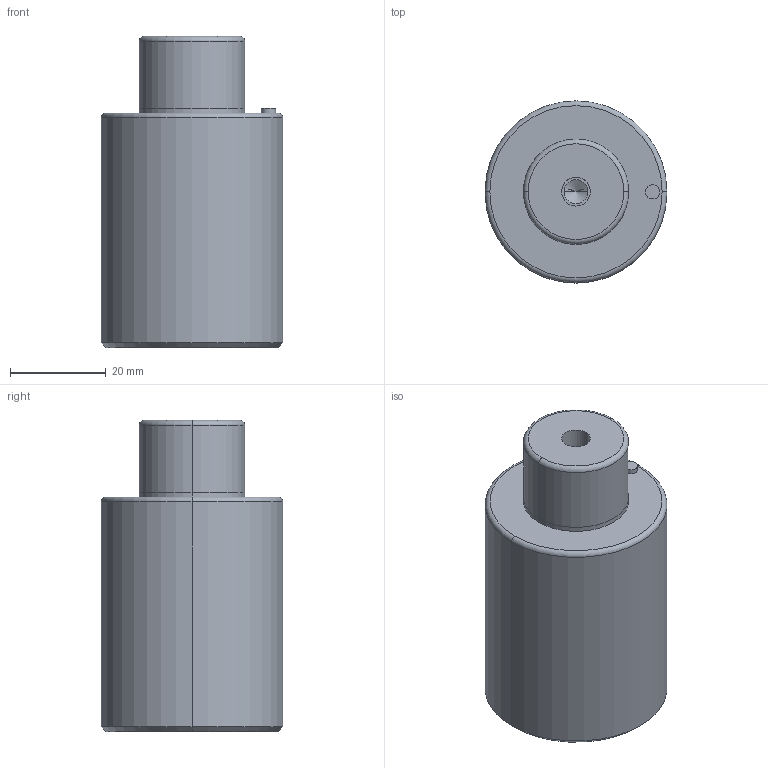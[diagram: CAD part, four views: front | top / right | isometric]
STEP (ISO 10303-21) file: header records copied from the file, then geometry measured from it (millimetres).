
FILE_DESCRIPTION(/* description */ (''),/* implementation_level */ '2;1');
FILE_NAME(/* name */ '3d_gsc38-15_03839_r00.stp',/* time_stamp */ '2011-01-10T14:15:22+09:00',/* author */ ('MISUMI'),/* organization */ (''),/* preprocessor_version */ 'ST-DEVELOPER v11',/* originating_system */ 'UGS - NX 5.0',/* authorisation */ '');
FILE_SCHEMA (('CONFIG_CONTROL_DESIGN'));
Length unit declared in the file: millimetre
Products named in the file (1): 3d_gsc38-15_03839_r00
Bounding box: 38 x 38 x 65 mm (x, y, z)
Volume: 60495.6 mm3; surface area: 9673.7 mm2
Topology: 1 solids, 1 shells, 32 faces, 66 edges, 38 vertices
Faces by surface type: cylinder 16, cone 6, plane 6, torus 4
Entity records: 912 total; most frequent: DIRECTION 168, CARTESIAN_POINT 133, ORIENTED_EDGE 124, AXIS2_PLACEMENT_3D 73, EDGE_CURVE 62, CIRCLE 40, EDGE_LOOP 38, VERTEX_POINT 38
